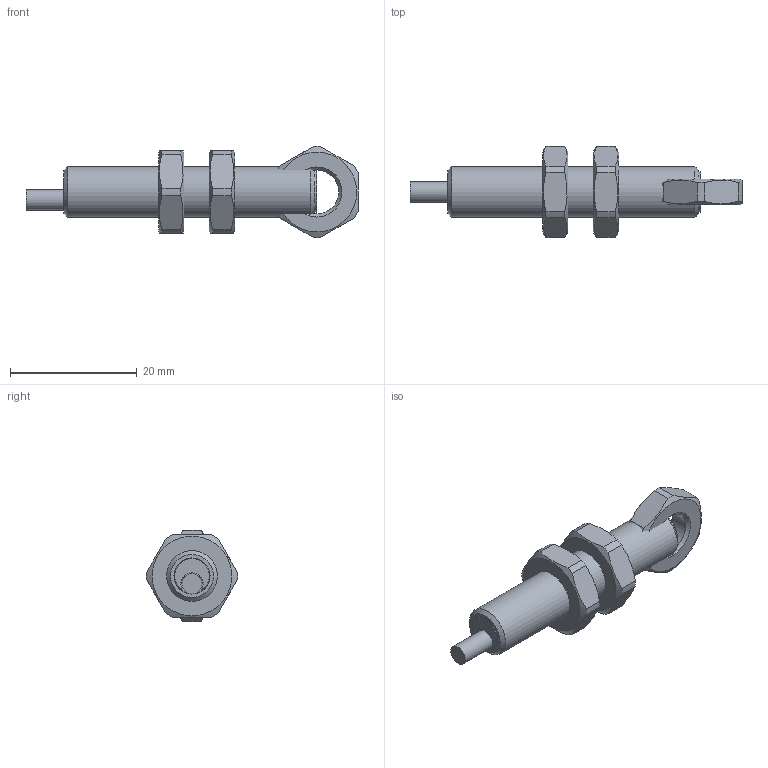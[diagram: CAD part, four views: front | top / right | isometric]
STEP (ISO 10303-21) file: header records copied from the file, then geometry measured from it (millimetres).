
FILE_DESCRIPTION( ( 'Unknown' ), '1' );
FILE_NAME( '//server-file-1/e_me/Solid Edge/Models/Dokumentationen/induktiv/IxRx 08/Vereinfachte Modelle/Neutralformate/IFRM 08xxxA1_L.stp', 'Unknown', ( 'Unknown' ), ( 'Unknown' ), 'XStep 1.0', 'Unknown', ' ' );
FILE_SCHEMA( ( 'CONFIG_CONTROL_DESIGN' ) );
Length unit declared in the file: millimetre
Products named in the file (3): Assem1; 101469; IFRM 08xxxA1_L_oA
Bounding box: 52.45 x 14.39 x 14.4 mm (x, y, z)
Volume: 5335.1 mm3; surface area: 3635 mm2
Topology: 5 solids, 5 shells, 95 faces, 227 edges, 150 vertices
Faces by surface type: plane 44, cylinder 29, cone 22
Full cylindrical faces by diameter (mm): 3.2 x2, 5.7 x2, 6.4 x2, 6.917 x3, 8 x2
Entity records: 1206 total; most frequent: CARTESIAN_POINT 276, DIRECTION 170, ORIENTED_EDGE 142, AXIS2_PLACEMENT_3D 75, EDGE_CURVE 71, EDGE_LOOP 56, VERTEX_POINT 53, FACE_OUTER_BOUND 43
